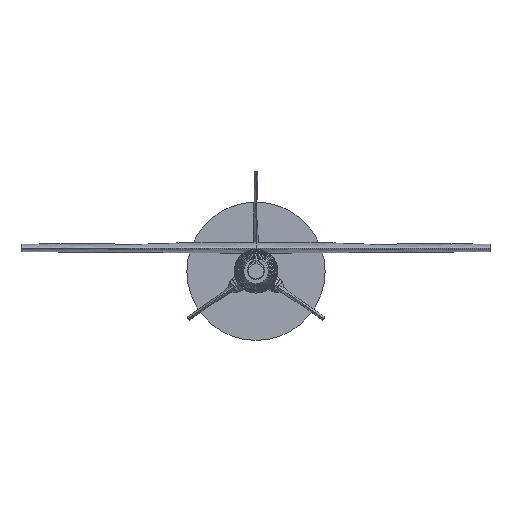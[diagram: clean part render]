
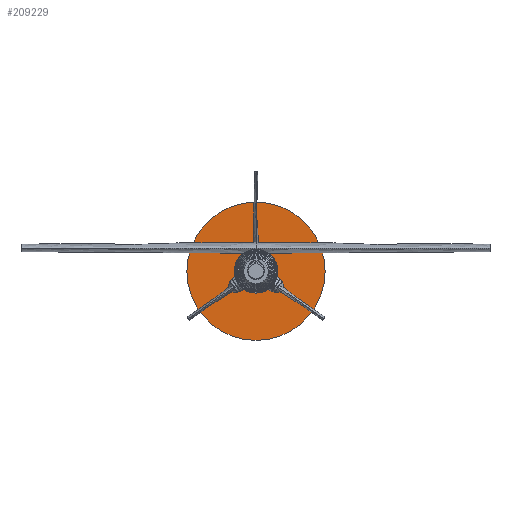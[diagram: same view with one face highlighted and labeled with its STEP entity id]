
A CAD part, left-side view. The second image highlights one B-rep face of the part: STEP entity #209229.
In plain terms, the highlighted planar face has unit normal (-1, 0, 0).
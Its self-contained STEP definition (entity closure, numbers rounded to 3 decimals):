
#209151 = CYLINDRICAL_SURFACE('',#209152,63.5);
#209152 = AXIS2_PLACEMENT_3D('',#209153,#209154,#209155);
#209153 = CARTESIAN_POINT('',(470.85,0.,0.));
#209154 = DIRECTION('',(1.,0.,0.));
#209155 = DIRECTION('',(-0.,0.,1.));
#209176 = VERTEX_POINT('',#209177);
#209177 = CARTESIAN_POINT('',(470.85,0.,63.5));
#209198 = EDGE_CURVE('',#209176,#209176,#209199,.T.);
#209199 = SURFACE_CURVE('',#209200,(#209205,#209212),.PCURVE_S1.);
#209200 = CIRCLE('',#209201,63.5);
#209201 = AXIS2_PLACEMENT_3D('',#209202,#209203,#209204);
#209202 = CARTESIAN_POINT('',(470.85,0.,0.));
#209203 = DIRECTION('',(1.,0.,0.));
#209204 = DIRECTION('',(-0.,0.,1.));
#209205 = PCURVE('',#209151,#209206);
#209206 = DEFINITIONAL_REPRESENTATION('',(#209207),#209211);
#209207 = LINE('',#209208,#209209);
#209208 = CARTESIAN_POINT('',(0.,0.));
#209209 = VECTOR('',#209210,1.);
#209210 = DIRECTION('',(1.,0.));
#209211 = ( GEOMETRIC_REPRESENTATION_CONTEXT(2) 
PARAMETRIC_REPRESENTATION_CONTEXT() REPRESENTATION_CONTEXT('2D SPACE',''
  ) );
#209212 = PCURVE('',#209213,#209218);
#209213 = PLANE('',#209214);
#209214 = AXIS2_PLACEMENT_3D('',#209215,#209216,#209217);
#209215 = CARTESIAN_POINT('',(470.85,0.,0.));
#209216 = DIRECTION('',(1.,0.,0.));
#209217 = DIRECTION('',(-0.,0.,1.));
#209218 = DEFINITIONAL_REPRESENTATION('',(#209219),#209223);
#209219 = CIRCLE('',#209220,63.5);
#209220 = AXIS2_PLACEMENT_2D('',#209221,#209222);
#209221 = CARTESIAN_POINT('',(0.,0.));
#209222 = DIRECTION('',(1.,0.));
#209223 = ( GEOMETRIC_REPRESENTATION_CONTEXT(2) 
PARAMETRIC_REPRESENTATION_CONTEXT() REPRESENTATION_CONTEXT('2D SPACE',''
  ) );
#209229 = ADVANCED_FACE('',(#209230),#209213,.F.);
#209230 = FACE_BOUND('',#209231,.T.);
#209231 = EDGE_LOOP('',(#209232));
#209232 = ORIENTED_EDGE('',*,*,#209198,.F.);
